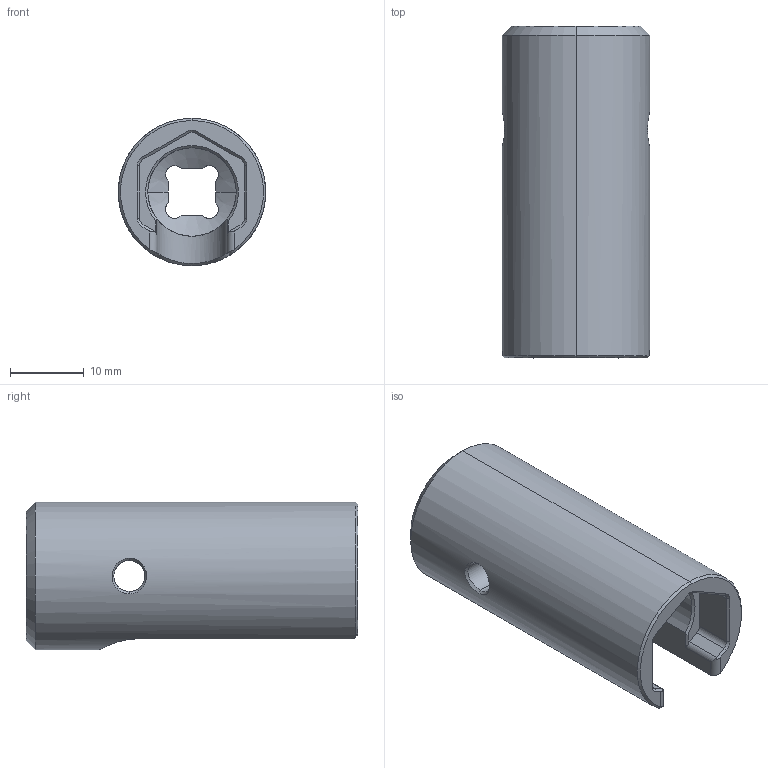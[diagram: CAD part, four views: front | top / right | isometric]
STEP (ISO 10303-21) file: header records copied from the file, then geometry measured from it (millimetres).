
FILE_DESCRIPTION (( 'STEP AP214' ), '1' );
FILE_NAME ('WLP-14MM-PLUG-WRENCH-R1-PUBLIC.STEP', '2021-06-03T23:50:03', ( '' ), ( '' ), 'SwSTEP 2.0', 'SolidWorks 2020', '' );
FILE_SCHEMA (( 'AUTOMOTIVE_DESIGN' ));
Length unit declared in the file: millimetre
Products named in the file (1): WLP-14MM-PLUG-WRENCH-R1-PUBLIC
Bounding box: 20 x 45 x 20 mm (x, y, z)
Volume: 7843.7 mm3; surface area: 4529.5 mm2
Topology: 1 solids, 1 shells, 70 faces, 186 edges, 117 vertices
Faces by surface type: plane 25, cylinder 24, cone 14, bspline 7
Entity records: 5985 total; most frequent: CARTESIAN_POINT 4344, ORIENTED_EDGE 372, DIRECTION 279, EDGE_CURVE 186, VERTEX_POINT 117, AXIS2_PLACEMENT_3D 98, LINE 83, VECTOR 83
